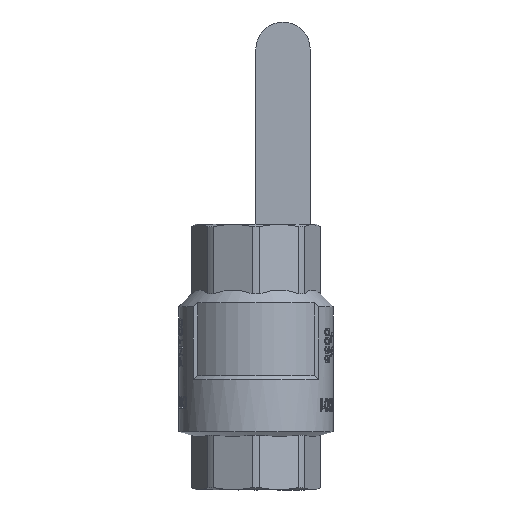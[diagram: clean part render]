
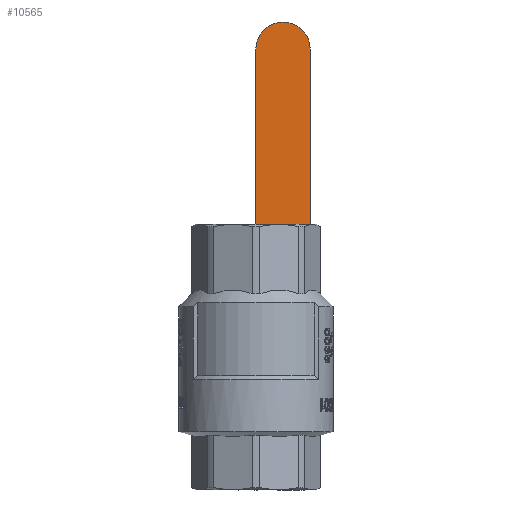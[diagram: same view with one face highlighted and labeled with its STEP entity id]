
A CAD part, front view. The second image highlights one B-rep face of the part: STEP entity #10565.
In plain terms, the highlighted planar face has unit normal (0, -1, 0).
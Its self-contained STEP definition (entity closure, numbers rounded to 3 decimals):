
#284=PLANE('',#11169);
#769=CIRCLE('',#11163,7.25);
#1419=FACE_OUTER_BOUND('',#2066,.T.);
#2066=EDGE_LOOP('',(#9726,#9727,#9728,#9729));
#3346=LINE('',#28567,#4051);
#3353=LINE('',#28579,#4058);
#3355=LINE('',#28583,#4060);
#4051=VECTOR('',#13015,10.);
#4058=VECTOR('',#13026,10.);
#4060=VECTOR('',#13032,10.);
#5101=VERTEX_POINT('',#28556);
#5102=VERTEX_POINT('',#28557);
#5105=VERTEX_POINT('',#28565);
#5108=VERTEX_POINT('',#28578);
#6665=EDGE_CURVE('',#5101,#5102,#769,.T.);
#6670=EDGE_CURVE('',#5102,#5105,#3346,.T.);
#6677=EDGE_CURVE('',#5108,#5101,#3353,.T.);
#6679=EDGE_CURVE('',#5108,#5105,#3355,.T.);
#9726=ORIENTED_EDGE('',*,*,#6677,.T.);
#9727=ORIENTED_EDGE('',*,*,#6665,.T.);
#9728=ORIENTED_EDGE('',*,*,#6670,.T.);
#9729=ORIENTED_EDGE('',*,*,#6679,.F.);
#10565=ADVANCED_FACE('',(#1419),#284,.T.);
#11163=AXIS2_PLACEMENT_3D('',#28558,#13006,#13007);
#11169=AXIS2_PLACEMENT_3D('',#28582,#13030,#13031);
#13006=DIRECTION('center_axis',(0.,-1.,0.));
#13007=DIRECTION('ref_axis',(-1.,0.,0.));
#13015=DIRECTION('',(0.,0.,-1.));
#13026=DIRECTION('',(0.,0.,1.));
#13030=DIRECTION('center_axis',(0.,-1.,0.));
#13031=DIRECTION('ref_axis',(0.,0.,-1.));
#13032=DIRECTION('',(-1.,0.,0.));
#28556=CARTESIAN_POINT('',(14.468,51.983,82.265));
#28557=CARTESIAN_POINT('',(-0.032,51.983,82.265));
#28558=CARTESIAN_POINT('Origin',(7.218,51.983,82.265));
#28565=CARTESIAN_POINT('',(-0.032,51.983,26.747));
#28567=CARTESIAN_POINT('',(-0.032,51.983,97.07));
#28578=CARTESIAN_POINT('',(14.468,51.983,26.747));
#28579=CARTESIAN_POINT('',(14.468,51.983,61.151));
#28582=CARTESIAN_POINT('Origin',(0.,51.983,111.874));
#28583=CARTESIAN_POINT('',(0.,51.983,26.747));
